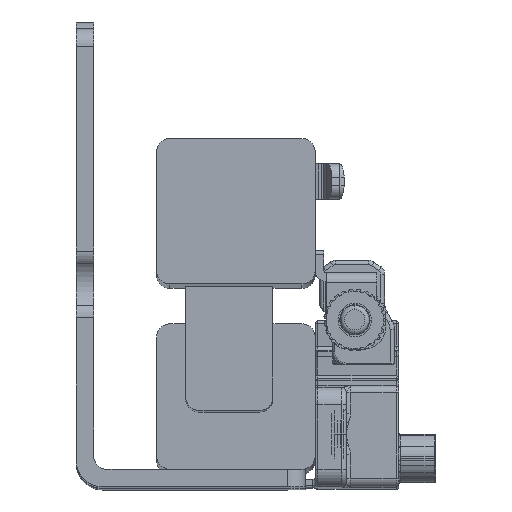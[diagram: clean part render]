
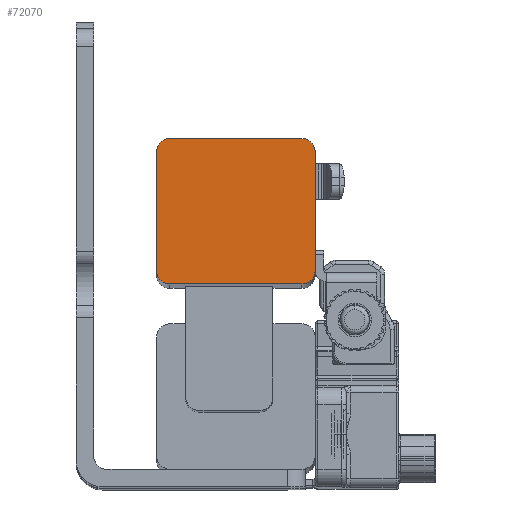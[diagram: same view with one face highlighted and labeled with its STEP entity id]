
A CAD part, top view. The second image highlights one B-rep face of the part: STEP entity #72070.
In plain terms, the highlighted planar face has unit normal (0, 0, 1).
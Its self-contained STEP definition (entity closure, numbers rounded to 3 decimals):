
#452 = CARTESIAN_POINT ( 'NONE',  ( -158.931, 372.089, 689.929 ) ) ;
#1186 = DIRECTION ( 'NONE',  ( 1., 0., 0. ) ) ;
#2378 = EDGE_CURVE ( 'NONE', #79930, #69891, #61877, .T. ) ;
#3721 = LINE ( 'NONE', #80455, #15784 ) ;
#5242 = ORIENTED_EDGE ( 'NONE', *, *, #63716, .F. ) ;
#5641 = VERTEX_POINT ( 'NONE', #7496 ) ;
#6609 = DIRECTION ( 'NONE',  ( 0., 0., 1. ) ) ;
#7496 = CARTESIAN_POINT ( 'NONE',  ( -140.931, 358.589, 689.929 ) ) ;
#8817 = DIRECTION ( 'NONE',  ( -1., 0., 0. ) ) ;
#11046 = CIRCLE ( 'NONE', #51259, 1.5 ) ;
#12084 = PLANE ( 'NONE',  #24673 ) ;
#14378 = VERTEX_POINT ( 'NONE', #37370 ) ;
#15784 = VECTOR ( 'NONE', #53686, 1000. ) ;
#16303 = CIRCLE ( 'NONE', #55186, 1.5 ) ;
#16792 = VERTEX_POINT ( 'NONE', #53222 ) ;
#18238 = DIRECTION ( 'NONE',  ( -1., 0., 0. ) ) ;
#20152 = DIRECTION ( 'NONE',  ( 0., 0., -1. ) ) ;
#21658 = DIRECTION ( 'NONE',  ( 0., 0., -1. ) ) ;
#21928 = CARTESIAN_POINT ( 'NONE',  ( -158.931, 358.589, 689.929 ) ) ;
#22264 = VERTEX_POINT ( 'NONE', #452 ) ;
#23350 = DIRECTION ( 'NONE',  ( -1., 0., 0. ) ) ;
#23935 = EDGE_CURVE ( 'NONE', #16792, #28883, #36858, .T. ) ;
#24673 = AXIS2_PLACEMENT_3D ( 'NONE', #57398, #6609, #69125 ) ;
#27747 = DIRECTION ( 'NONE',  ( 0., 0., -1. ) ) ;
#28715 = CIRCLE ( 'NONE', #59532, 1.5 ) ;
#28883 = VERTEX_POINT ( 'NONE', #47032 ) ;
#29193 = EDGE_CURVE ( 'NONE', #39277, #22264, #49720, .T. ) ;
#29220 = DIRECTION ( 'NONE',  ( 0., 0., -1. ) ) ;
#29588 = CARTESIAN_POINT ( 'NONE',  ( -142.431, 372.089, 689.929 ) ) ;
#30736 = ORIENTED_EDGE ( 'NONE', *, *, #48714, .F. ) ;
#31342 = EDGE_CURVE ( 'NONE', #5641, #79930, #11046, .T. ) ;
#31369 = FACE_OUTER_BOUND ( 'NONE', #54602, .T. ) ;
#33944 = ORIENTED_EDGE ( 'NONE', *, *, #23935, .F. ) ;
#34675 = CARTESIAN_POINT ( 'NONE',  ( -157.431, 358.589, 689.929 ) ) ;
#36383 = ORIENTED_EDGE ( 'NONE', *, *, #59637, .F. ) ;
#36858 = LINE ( 'NONE', #43597, #61364 ) ;
#37370 = CARTESIAN_POINT ( 'NONE',  ( -140.931, 372.089, 689.929 ) ) ;
#39277 = VERTEX_POINT ( 'NONE', #21928 ) ;
#41570 = CARTESIAN_POINT ( 'NONE',  ( -157.431, 372.089, 689.929 ) ) ;
#42178 = ORIENTED_EDGE ( 'NONE', *, *, #31342, .F. ) ;
#43283 = EDGE_CURVE ( 'NONE', #14378, #5641, #3721, .T. ) ;
#43309 = ORIENTED_EDGE ( 'NONE', *, *, #29193, .F. ) ;
#43597 = CARTESIAN_POINT ( 'NONE',  ( -140.931, 373.589, 689.929 ) ) ;
#44358 = CARTESIAN_POINT ( 'NONE',  ( -142.431, 357.089, 689.929 ) ) ;
#45532 = VECTOR ( 'NONE', #18238, 1000. ) ;
#46117 = ORIENTED_EDGE ( 'NONE', *, *, #43283, .F. ) ;
#47032 = CARTESIAN_POINT ( 'NONE',  ( -142.431, 373.589, 689.929 ) ) ;
#47249 = DIRECTION ( 'NONE',  ( -1., 0., 0. ) ) ;
#48078 = ORIENTED_EDGE ( 'NONE', *, *, #2378, .F. ) ;
#48714 = EDGE_CURVE ( 'NONE', #69891, #39277, #75767, .T. ) ;
#49720 = LINE ( 'NONE', #63975, #64462 ) ;
#50547 = CARTESIAN_POINT ( 'NONE',  ( -142.431, 357.089, 689.929 ) ) ;
#51259 = AXIS2_PLACEMENT_3D ( 'NONE', #71730, #20152, #8817 ) ;
#53222 = CARTESIAN_POINT ( 'NONE',  ( -157.431, 373.589, 689.929 ) ) ;
#53686 = DIRECTION ( 'NONE',  ( 0., -1., 0. ) ) ;
#54602 = EDGE_LOOP ( 'NONE', ( #46117, #5242, #33944, #36383, #43309, #30736, #48078, #42178 ) ) ;
#55186 = AXIS2_PLACEMENT_3D ( 'NONE', #41570, #27747, #66342 ) ;
#57398 = CARTESIAN_POINT ( 'NONE',  ( -142.421, 372.099, 689.929 ) ) ;
#59532 = AXIS2_PLACEMENT_3D ( 'NONE', #29588, #21658, #47249 ) ;
#59637 = EDGE_CURVE ( 'NONE', #22264, #16792, #16303, .T. ) ;
#61364 = VECTOR ( 'NONE', #1186, 1000. ) ;
#61877 = LINE ( 'NONE', #50547, #45532 ) ;
#63716 = EDGE_CURVE ( 'NONE', #28883, #14378, #28715, .T. ) ;
#63975 = CARTESIAN_POINT ( 'NONE',  ( -158.931, 372.089, 689.929 ) ) ;
#64462 = VECTOR ( 'NONE', #81571, 1000. ) ;
#66342 = DIRECTION ( 'NONE',  ( 1., 0., 0. ) ) ;
#67767 = AXIS2_PLACEMENT_3D ( 'NONE', #34675, #29220, #23350 ) ;
#69125 = DIRECTION ( 'NONE',  ( -1., 0., 0. ) ) ;
#69891 = VERTEX_POINT ( 'NONE', #75655 ) ;
#71730 = CARTESIAN_POINT ( 'NONE',  ( -142.431, 358.589, 689.929 ) ) ;
#72070 = ADVANCED_FACE ( 'NONE', ( #31369 ), #12084, .T. ) ;
#75655 = CARTESIAN_POINT ( 'NONE',  ( -157.431, 357.089, 689.929 ) ) ;
#75767 = CIRCLE ( 'NONE', #67767, 1.5 ) ;
#79930 = VERTEX_POINT ( 'NONE', #44358 ) ;
#80455 = CARTESIAN_POINT ( 'NONE',  ( -140.931, 373.589, 689.929 ) ) ;
#81571 = DIRECTION ( 'NONE',  ( 0., 1., 0. ) ) ;
